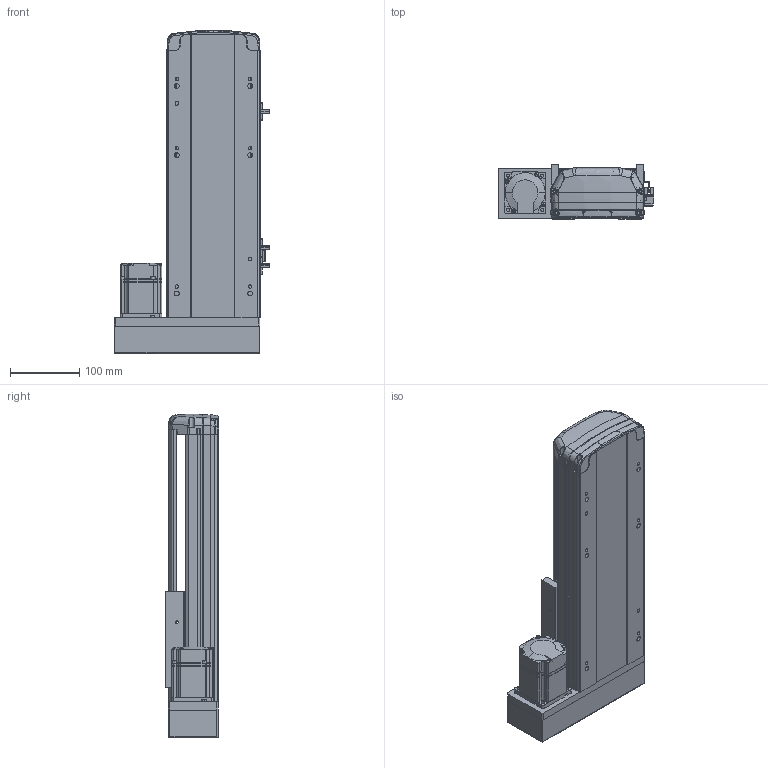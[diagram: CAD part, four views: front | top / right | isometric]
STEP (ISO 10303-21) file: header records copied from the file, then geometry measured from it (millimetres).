
FILE_DESCRIPTION (( 'STEP AP214' ), '1' );
FILE_NAME ('RTH14-XX-200-L-M20-C4.STEP', '2025-10-25T02:35:44', ( 'Microsoft' ), ( 'Microsoft' ), 'SwSTEP 2.0', 'SolidWorks 2018', '' );
FILE_SCHEMA (( 'AUTOMOTIVE_DESIGN' ));
Length unit declared in the file: millimetre
Products named in the file (10): N_RTH13-L-018 裔赽^RTH14-XX-XX-L-M20-C4; N_MSMD022P1AA_200W^RTH14-XX-XX-L-M20-C4; N_RTH14-M-007P奻裔^RTH14-XX-XX-L-M20-C4; N_RTH14-R-004-SFSR16賑釱^RTH14-XX-XX-L-M20-C4; N_RTH13-L-008-P20 萇儂啣酘蛌殏^RTH14-XX-XX-L-M20-C4; N_RTH13-L-012感应片（外置）^RTH14-XX-XX-L-M20-C4; RTH14-XX-200-L-M20-C4; N_RTH14-GY-001P^RTH14-XX-XX-L-M20-C4; N_RTH14-M-011P菁釱^RTH14-XX-XX-L-M20-C4; N_OMRON EE-SX672 传感器^RTH14-XX-XX-L-M20-C4
Assembly tree (11 placements, depth 2):
  RTH14-XX-200-L-M20-C4
    N_RTH14-M-011P菁釱^RTH14-XX-XX-L-M20-C4
    N_RTH14-M-007P奻裔^RTH14-XX-XX-L-M20-C4
    N_MSMD022P1AA_200W^RTH14-XX-XX-L-M20-C4
    N_RTH13-L-008-P20 萇儂啣酘蛌殏^RTH14-XX-XX-L-M20-C4
    N_RTH13-L-018 裔赽^RTH14-XX-XX-L-M20-C4
    N_RTH13-L-012感应片（外置）^RTH14-XX-XX-L-M20-C4
    N_OMRON EE-SX672 传感器^RTH14-XX-XX-L-M20-C4  x3
    N_RTH14-GY-001P^RTH14-XX-XX-L-M20-C4
    N_RTH14-R-004-SFSR16賑釱^RTH14-XX-XX-L-M20-C4
Bounding box: 224 x 78.03 x 467.49 mm (x, y, z)
Volume: 2452164.1 mm3; surface area: 592127.7 mm2
Topology: 11 solids, 11 shells, 1840 faces, 5135 edges, 3362 vertices
Faces by surface type: plane 985, cylinder 461, bspline 345, cone 45, torus 4
Entity records: 55881 total; most frequent: CARTESIAN_POINT 22729, ORIENTED_EDGE 7338, DIRECTION 5830, EDGE_CURVE 3669, VERTEX_POINT 2398, VECTOR 2126, LINE 2126, AXIS2_PLACEMENT_3D 1852
